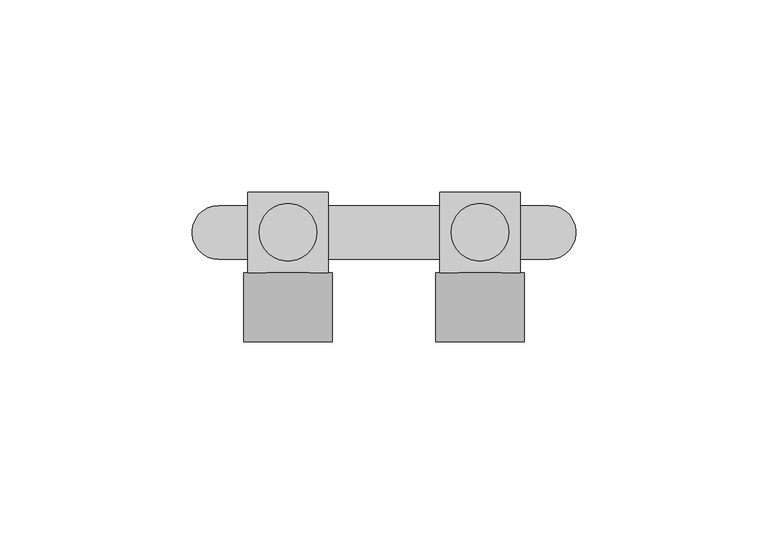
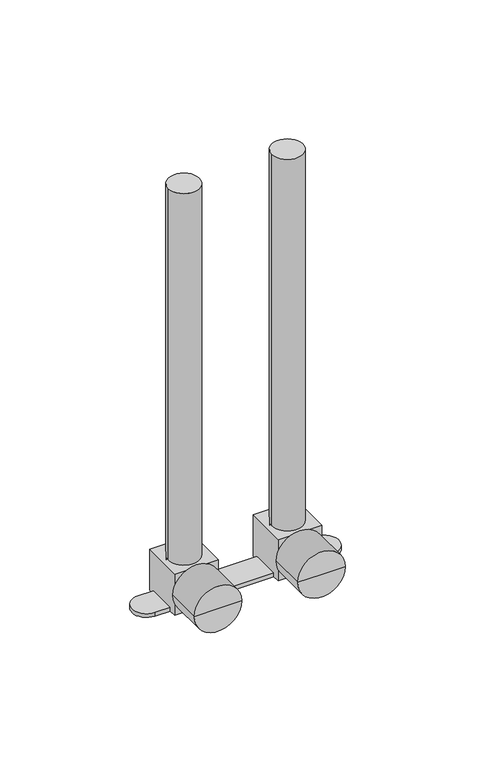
"""IFC4 building model written with IfcOpenShell, lengths in millimetres: pipe fitting geometry, KAN-therm Push kolanko zespolone ze wspornikiem L=200 : KAN-therm Push kolanko zespolone ze wspornikiem L=200."""

import ifcopenshell
import ifcopenshell.guid

model = None  # the IFC model being written
_history = None  # IfcOwnerHistory: only IFC2X3 demands one
_inside = {}  # id of a spatial element -> (the spatial element, [elements in it])
_under = {}  # id of a project, library or spatial element -> (it, [spatial elements below it])
_declared = {}  # id of a project -> (the project, [libraries it declares])
_typed = {}  # id of a type object -> (the type object, [elements of that type])
_made_of = {}  # id of a material, layer set ... -> (it, [elements and type objects made of it])


def new_model(schema):
    """Start an empty IFC model of exactly this schema.

    Asked for "IFC4X3", IfcOpenShell would pick the latest addendum, in which some entities
    have other attributes; the version numbers below select the first issue.
    IFC2X3 requires an IfcOwnerHistory on every rooted entity: one is made here for all.
    """
    global model, _history
    if schema == "IFC4X3":
        model = ifcopenshell.file(schema_version=(4, 3, 0, 0))
    else:
        model = ifcopenshell.file(schema=schema)
    _inside.clear()
    _under.clear()
    _declared.clear()
    _typed.clear()
    _made_of.clear()
    _history = None
    if model.schema == "IFC2X3":
        org = make("IfcOrganization", Name="unknown")
        user = make(
            "IfcPersonAndOrganization",
            ThePerson=make("IfcPerson", FamilyName="unknown"),
            TheOrganization=org,
        )
        app = make(
            "IfcApplication",
            ApplicationDeveloper=org,
            Version="unknown",
            ApplicationFullName="unknown",
            ApplicationIdentifier="unknown",
        )
        _history = make(
            "IfcOwnerHistory",
            OwningUser=user,
            OwningApplication=app,
            ChangeAction="ADDED",
            CreationDate=0,
        )
    return model


def make(cls, **values):
    """One entity of the class cls with the attributes given. An attribute that is None is left unset."""
    return model.create_entity(
        cls, **{name: value for name, value in values.items() if value is not None}
    )


def rooted(cls, **values):
    """An entity with a GlobalId (a new one), such as an element, a storey or a relation."""
    return make(cls, GlobalId=ifcopenshell.guid.new(), OwnerHistory=_history, **values)


def si_unit(unit_type, name, prefix=None):
    """IfcSIUnit, for example si_unit("LENGTHUNIT", "METRE", prefix="MILLI")."""
    return make("IfcSIUnit", UnitType=unit_type, Prefix=prefix, Name=name)


def assignment(units):
    """IfcUnitAssignment: the units of a project."""
    return None if units is None else make("IfcUnitAssignment", Units=units)


def point(xyz):
    """IfcCartesianPoint."""
    return None if xyz is None else make("IfcCartesianPoint", Coordinates=xyz)


def direction(xyz):
    """IfcDirection."""
    return None if xyz is None else make("IfcDirection", DirectionRatios=xyz)


def frame(location, z_axis=None, x_axis=None):
    """IfcAxis2Placement3D, a coordinate frame: its origin and axes. An axis left out is left unset."""
    return make(
        "IfcAxis2Placement3D",
        Location=point(location),
        Axis=direction(z_axis),
        RefDirection=direction(x_axis),
    )


def frame_2d(location, x_axis=None):
    """IfcAxis2Placement2D, a coordinate frame in the plane: its origin and x axis."""
    return make(
        "IfcAxis2Placement2D", Location=point(location), RefDirection=direction(x_axis)
    )


def origin():
    """The frame at (0, 0, 0) with its axes left unset."""
    return frame((0.0, 0.0, 0.0))


def origin_with_axes():
    """The frame at (0, 0, 0) with the z axis (0, 0, 1) and the x axis (1, 0, 0) written out."""
    return frame((0.0, 0.0, 0.0), z_axis=(0.0, 0.0, 1.0), x_axis=(1.0, 0.0, 0.0))


def origin_2d():
    """The frame at (0, 0) in the plane with its x axis left unset."""
    return frame_2d((0.0, 0.0))


def place(relative_to, where):
    """IfcLocalPlacement: puts the frame where relative to a parent placement (None: the world)."""
    return make(
        "IfcLocalPlacement", PlacementRelTo=relative_to, RelativePlacement=where
    )


def context(
    kind, dimensions, precision=None, world=None, true_north=None, identifier=None
):
    """IfcGeometricRepresentationContext, for example the 3D "Model" context."""
    return make(
        "IfcGeometricRepresentationContext",
        ContextIdentifier=identifier,
        ContextType=kind,
        CoordinateSpaceDimension=dimensions,
        Precision=precision,
        WorldCoordinateSystem=world,
        TrueNorth=true_north,
    )


def project(units=None, contexts=None):
    """IfcProject with its units and contexts."""
    return rooted(
        "IfcProject",
        Name="project",
        RepresentationContexts=contexts,
        UnitsInContext=assignment(units),
    )


def spatial(cls, under=None, at=None, **own):
    """A site, building, storey or space (cls), placed at a placement, below another one or the project."""
    s = rooted(cls, ObjectPlacement=at, **own)
    if under is not None:
        _under.setdefault(under.id(), (under, []))[1].append(s)
    return s


def circle_curve(where, radius):
    """IfcCircle in the frame where."""
    return make("IfcCircle", Position=where, Radius=radius)


def trimmed(basis, trim1, trim2, sense, master):
    """IfcTrimmedCurve: the piece of a basis curve between two trims."""
    return make(
        "IfcTrimmedCurve",
        BasisCurve=basis,
        Trim1=trim1,
        Trim2=trim2,
        SenseAgreement=sense,
        MasterRepresentation=master,
    )


def segment(curve, same_sense, transition):
    """IfcCompositeCurveSegment."""
    return make(
        "IfcCompositeCurveSegment",
        Transition=transition,
        SameSense=same_sense,
        ParentCurve=curve,
    )


def composite_curve(segments, self_intersect=None):
    """IfcCompositeCurve: segments joined end to end."""
    return make("IfcCompositeCurve", Segments=segments, SelfIntersect=self_intersect)


def outline(outer, holes=None, kind="AREA"):
    """IfcArbitraryClosedProfileDef: a profile drawn as a closed curve; with holes, ...WithVoids."""
    if holes is None:
        return make("IfcArbitraryClosedProfileDef", ProfileType=kind, OuterCurve=outer)
    return make(
        "IfcArbitraryProfileDefWithVoids",
        ProfileType=kind,
        OuterCurve=outer,
        InnerCurves=holes,
    )


def extrude(swept, where, along, depth):
    """IfcExtrudedAreaSolid: the profile swept, set in the frame where, extruded along a direction by depth."""
    return make(
        "IfcExtrudedAreaSolid",
        SweptArea=swept,
        Position=where,
        ExtrudedDirection=direction(along),
        Depth=depth,
    )


def shape(context_of_items, identifier, shape_type, items):
    """IfcShapeRepresentation: the items that make up one representation, for example the "Body"."""
    return make(
        "IfcShapeRepresentation",
        ContextOfItems=context_of_items,
        RepresentationIdentifier=identifier,
        RepresentationType=shape_type,
        Items=items,
    )


def source(mapping_origin, context_of_items, identifier, shape_type, items):
    """IfcRepresentationMap: a shape defined once, which mapped items show again and again."""
    return make(
        "IfcRepresentationMap",
        MappingOrigin=mapping_origin,
        MappedRepresentation=shape(context_of_items, identifier, shape_type, items),
    )


def transform(
    local_origin,
    x_axis=None,
    y_axis=None,
    z_axis=None,
    scale=None,
    scale2=None,
    scale3=None,
    uniform=True,
):
    """IfcCartesianTransformationOperator3D, or its non-uniform kind. x_axis, y_axis, z_axis: its Axis1, 2, 3."""
    if uniform:
        return make(
            "IfcCartesianTransformationOperator3D",
            Axis1=direction(x_axis),
            Axis2=direction(y_axis),
            LocalOrigin=point(local_origin),
            Scale=scale,
            Axis3=direction(z_axis),
        )
    return make(
        "IfcCartesianTransformationOperator3DnonUniform",
        Axis1=direction(x_axis),
        Axis2=direction(y_axis),
        LocalOrigin=point(local_origin),
        Scale=scale,
        Axis3=direction(z_axis),
        Scale2=scale2,
        Scale3=scale3,
    )


def mapped(mapping_source, mapping_target):
    """IfcMappedItem: shows the shape of a source again, moved by a transform."""
    return make(
        "IfcMappedItem", MappingSource=mapping_source, MappingTarget=mapping_target
    )


def made_of(thing, what):
    """Note that an element or type object is made of a material, layer set ...; save() writes the relation."""
    if what is not None:
        _made_of.setdefault(what.id(), (what, []))[1].append(thing)
    return thing


def element(
    cls,
    number,
    at=None,
    inside=None,
    cuts=None,
    type_object=None,
    material=None,
    context=None,
    identifier="Body",
    shape_type=None,
    held_by="IfcProductDefinitionShape",
    body=None,
    shapes=None,
    **own,
):
    """One element of the class cls, such as IfcWall. Its Tag is "e" and its number.

    at: its placement. inside: the storey or other place that contains it. cuts: it is an
    opening in that element (IfcRelVoidsElement). A single representation is given by context,
    identifier, shape_type and body (its items); several are given by shapes. held_by: the class
    of the entity that holds the representations. save() writes the other relations.
    """
    e = rooted(cls, Tag="e%d" % number, ObjectPlacement=at, **own)
    if body is not None:
        shapes = [shape(context, identifier, shape_type, body)]
    if shapes is not None:
        e.Representation = make(held_by, Representations=shapes)
    if inside is not None:
        _inside.setdefault(inside.id(), (inside, []))[1].append(e)
    if cuts is not None:
        rooted(
            "IfcRelVoidsElement", RelatingBuildingElement=cuts, RelatedOpeningElement=e
        )
    if type_object is not None:
        _typed.setdefault(type_object.id(), (type_object, []))[1].append(e)
    return made_of(e, material)


def aggregate(whole, parts):
    """IfcRelAggregates: a whole, such as a stair, and the parts it consists of."""
    return rooted("IfcRelAggregates", RelatingObject=whole, RelatedObjects=parts)


def save(model, path):
    """Write the relations noted so far, then the file.

    IfcRelAggregates (storeys below a building ...), IfcRelContainedInSpatialStructure (elements
    in a storey), IfcRelDefinesByType, IfcRelAssociatesMaterial and IfcRelDeclares: one each for
    every whole, place, type object, material and project.
    """
    for whole, parts in _under.values():
        aggregate(whole, parts)
    for where, things in _inside.values():
        rooted(
            "IfcRelContainedInSpatialStructure",
            RelatedElements=things,
            RelatingStructure=where,
        )
    for kind, things in _typed.values():
        rooted("IfcRelDefinesByType", RelatedObjects=things, RelatingType=kind)
    for what, things in _made_of.values():
        rooted("IfcRelAssociatesMaterial", RelatedObjects=things, RelatingMaterial=what)
    for by, libraries in _declared.values():
        rooted("IfcRelDeclares", RelatingContext=by, RelatedDefinitions=libraries)
    model.write(path)


def plane_surface(at):
    """IfcPlane: the flat surface through the origin of the frame at, square to its z axis."""
    return make("IfcPlane", Position=at)


def cylinder_surface(at, radius):
    """IfcCylindricalSurface: all points at the distance radius from the z axis of the frame at."""
    return make("IfcCylindricalSurface", Position=at, Radius=radius)


def advanced_brep(points, edges, surfaces, faces):
    """IfcAdvancedBrep: a solid bounded by faces that lie on surfaces and meet in shared edges.

    An edge is (start, end): straight between two places in points (the first is 0);
    or (start, end, curve); or (start, end, curve, False) where it runs against its curve.
    A face is (place in surfaces, loops), or (place, loops, False) where it looks against
    its surface's normal. A loop lists edges by number (the first is 1), with a minus sign
    where the edge is run from its end to its start. The first loop is the outer one.
    """
    corners = [point(p) for p in points]
    vertices = [make("IfcVertexPoint", VertexGeometry=c) for c in corners]
    made = []
    for start, end, *more in edges:
        made.append(
            make(
                "IfcEdgeCurve",
                EdgeStart=vertices[start],
                EdgeEnd=vertices[end],
                EdgeGeometry=more[0] if more else make("IfcPolyline", Points=[corners[start], corners[end]]),
                SameSense=more[1] if len(more) > 1 else True,
            )
        )
    hull = []
    for where, loops, *sense in faces:
        bounds = []
        for j, loop in enumerate(loops):
            ring = [make("IfcOrientedEdge", EdgeElement=made[abs(k) - 1], Orientation=k > 0) for k in loop]
            bounds.append(
                make(
                    "IfcFaceOuterBound" if j == 0 else "IfcFaceBound",
                    Bound=make("IfcEdgeLoop", EdgeList=ring),
                    Orientation=True,
                )
            )
        hull.append(make("IfcAdvancedFace", Bounds=bounds, FaceSurface=surfaces[where], SameSense=sense[0] if sense else True))
    return make("IfcAdvancedBrep", Outer=make("IfcClosedShell", CfsFaces=hull))


def pipe_fitting_952cee33(model_context):
    return source(origin(), model_context, "Body", "SolidModel", [
        advanced_brep(
        [(-11.5, -28.5, 0.0), (11.5, -28.5, 0.0), (0.0, -28.5, 0.0), (-11.5, -10.5, 0.0), (11.5, -10.5, 0.0), (0.0, -10.5, 0.0)],
        [
            (0, 1, circle_curve(frame((0.0, -28.5, 0.0), z_axis=(0.0, -1.0, 0.0), x_axis=(1.0000000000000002, 0.0, 0.0)), 11.5)),
            (1, 2),
            (2, 0),
            (1, 0, circle_curve(frame((0.0, -28.5, 0.0), z_axis=(0.0, -1.0, 0.0), x_axis=(1.0000000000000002, 0.0, 0.0)), 11.5)),
            (3, 4, circle_curve(frame((0.0, -10.5, 0.0), z_axis=(0.0, -1.0, 0.0), x_axis=(1.0000000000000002, 0.0, 0.0)), 11.5)),
            (4, 1),
            (0, 3),
            (4, 3, circle_curve(frame((0.0, -10.5, 0.0), z_axis=(0.0, -1.0, 0.0), x_axis=(1.0000000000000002, 0.0, 0.0)), 11.5)),
            (5, 4),
            (3, 5),
        ],
        [
            plane_surface(frame((0.0, -28.5, 0.0), z_axis=(0.0, -1.0, 0.0), x_axis=(1.0, 0.0, 0.0))),
            cylinder_surface(frame((0.0, -2005.5, 0.0), z_axis=(0.0, 1.0000000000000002, 0.0), x_axis=(1.0000000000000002, 0.0, 0.0)), 11.5),
            plane_surface(frame((0.0, -10.5, 0.0), z_axis=(0.0, 1.0, 0.0), x_axis=(1.0, 0.0, 0.0))),
        ],
        [
            (0, [[1, 2, 3]]),
            (0, [[4, -3, -2]]),
            (1, [[5, 6, -1, 7]]),
            (1, [[8, -7, -4, -6]]),
            (2, [[9, -5, 10]]),
            (2, [[-10, -8, -9]]),
        ],
    ),
        advanced_brep(
        [(38.5, -28.5, 0.0), (61.5, -28.5, 0.0), (50.0, -28.5, 0.0), (38.5, -10.5, 0.0), (61.5, -10.5, 0.0), (50.0, -10.5, 0.0)],
        [
            (0, 1, circle_curve(frame((50.0, -28.5, 0.0), z_axis=(0.0, -1.0, 0.0), x_axis=(1.0000000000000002, 0.0, 0.0)), 11.5)),
            (1, 2),
            (2, 0),
            (1, 0, circle_curve(frame((50.0, -28.5, 0.0), z_axis=(0.0, -1.0, 0.0), x_axis=(1.0000000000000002, 0.0, 0.0)), 11.5)),
            (3, 4, circle_curve(frame((50.0, -10.5, 0.0), z_axis=(0.0, -1.0, 0.0), x_axis=(1.0000000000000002, 0.0, 0.0)), 11.5)),
            (4, 1),
            (0, 3),
            (4, 3, circle_curve(frame((50.0, -10.5, 0.0), z_axis=(0.0, -1.0, 0.0), x_axis=(1.0000000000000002, 0.0, 0.0)), 11.5)),
            (5, 4),
            (3, 5),
        ],
        [
            plane_surface(frame((50.0, -28.5, 0.0), z_axis=(0.0, -1.0, 0.0), x_axis=(1.0, 0.0, 0.0))),
            cylinder_surface(frame((50.0, -2005.5, 0.0), z_axis=(0.0, 1.0000000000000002, 0.0), x_axis=(1.0000000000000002, 0.0, 0.0)), 11.5),
            plane_surface(frame((50.0, -10.5, 0.0), z_axis=(0.0, 1.0, 0.0), x_axis=(1.0, 0.0, 0.0))),
        ],
        [
            (0, [[1, 2, 3]]),
            (0, [[4, -3, -2]]),
            (1, [[5, 6, -1, 7]]),
            (1, [[8, -7, -4, -6]]),
            (2, [[9, -5, 10]]),
            (2, [[-10, -8, -9]]),
        ],
    ),
        extrude(outline(composite_curve([segment(trimmed(circle_curve(origin_2d(), 7.5), [point((-7.5, 0.0))], [point((7.5, 0.0))], False, "CARTESIAN"), True, "CONTINUOUS"), segment(trimmed(circle_curve(origin_2d(), 7.5), [point((7.5, 0.0))], [point((-7.5, 0.0))], False, "CARTESIAN"), True, "CONTINUOUS")], self_intersect=False)), origin_with_axes(), (0.0, 0.0, 1.0), 200.0),
        extrude(outline(composite_curve([segment(trimmed(circle_curve(frame_2d((50.0, 0.0)), 7.5), [point((42.5, 0.0))], [point((57.5, 0.0))], False, "CARTESIAN"), True, "CONTINUOUS"), segment(trimmed(circle_curve(frame_2d((50.0, 0.0)), 7.5), [point((57.5, 0.0))], [point((42.5, 0.0))], False, "CARTESIAN"), True, "CONTINUOUS")], self_intersect=False)), origin_with_axes(), (0.0, 0.0, 1.0), 200.0),
        advanced_brep(
        [(60.5, -10.5, 10.5), (60.5, 10.5, 10.5), (39.5, 10.5, 10.5), (39.5, -10.5, 10.5), (-18.0, -7.0, -10.5), (-18.0, 7.0, -10.5), (-10.5, 7.0, -10.5), (-10.5, 10.5, -10.5), (10.5, 10.5, -10.5), (10.5, 7.0, -10.5), (39.5, 7.0, -10.5), (39.5, 10.5, -10.5), (60.5, 10.5, -10.5), (60.5, 7.0, -10.5), (68.0, 7.0, -10.5), (68.0, -7.0, -10.5), (60.5, -7.0, -10.5), (60.5, -10.5, -10.5), (39.5, -10.5, -10.5), (39.5, -7.0, -10.5), (10.5, -7.0, -10.5), (10.5, -10.5, -10.5), (-10.5, -10.5, -10.5), (-10.5, -7.0, -10.5), (60.5, -7.0, -8.5), (60.5, 7.0, -8.5), (39.5, 7.0, -8.5), (39.5, -7.0, -8.5), (10.5, -10.5, 10.5), (10.5, 10.5, 10.5), (-10.5, 10.5, 10.5), (-10.5, -10.5, 10.5), (10.5, -7.0, -8.5), (10.5, 7.0, -8.5), (-10.5, 7.0, -8.5), (-10.5, -7.0, -8.5), (-18.0, 7.0, -8.5), (-18.0, -7.0, -8.5), (68.0, -7.0, -8.5), (68.0, 7.0, -8.5)],
        [
            (0, 1),
            (1, 2),
            (2, 3),
            (3, 0),
            (4, 5, circle_curve(frame((-18.0, 0.0, -10.5), z_axis=(0.0, 0.0, -1.0), x_axis=(1.0, 0.0, 0.0)), 7.0)),
            (5, 6),
            (6, 7),
            (7, 8),
            (8, 9),
            (9, 10),
            (10, 11),
            (11, 12),
            (12, 13),
            (13, 14),
            (14, 15, circle_curve(frame((68.0, 0.0, -10.5), z_axis=(0.0, 0.0, -1.0), x_axis=(1.0, 0.0, 0.0)), 7.0)),
            (15, 16),
            (16, 17),
            (17, 18),
            (18, 19),
            (19, 20),
            (20, 21),
            (21, 22),
            (22, 23),
            (23, 4),
            (0, 17),
            (16, 24),
            (24, 25),
            (25, 13),
            (12, 1),
            (11, 2),
            (10, 26),
            (26, 27),
            (27, 19),
            (18, 3),
            (28, 29),
            (29, 30),
            (30, 31),
            (31, 28),
            (28, 21),
            (20, 32),
            (32, 33),
            (33, 9),
            (8, 29),
            (7, 30),
            (6, 34),
            (34, 35),
            (35, 23),
            (22, 31),
            (36, 37, circle_curve(frame((-18.0, 0.0, -8.5), z_axis=(0.0, 0.0, 1.0), x_axis=(1.0, 0.0, 0.0)), 7.0)),
            (37, 35),
            (34, 36),
            (38, 39, circle_curve(frame((68.0, 0.0, -8.5), z_axis=(0.0, 0.0, 1.0), x_axis=(1.0, 0.0, 0.0)), 7.0)),
            (39, 25),
            (24, 38),
            (26, 33),
            (32, 27),
            (39, 14),
            (5, 36),
            (4, 37),
            (15, 38),
        ],
        [
            plane_surface(frame((60.5, 10.5, 10.5), z_axis=(0.0, 0.0, 1.0), x_axis=(0.0, 1.0, 0.0))),
            plane_surface(frame((60.5, 10.5, -10.5), z_axis=(0.0, 0.0, -1.0), x_axis=(0.0, -1.0, 0.0))),
            plane_surface(frame((60.5, -10.5, 10.5), z_axis=(1.0, 0.0, 0.0), x_axis=(0.0, 0.0, -1.0))),
            plane_surface(frame((60.5, 10.5, 10.5), z_axis=(0.0, 1.0, 0.0), x_axis=(0.0, 0.0, -1.0))),
            plane_surface(frame((39.5, 10.5, 10.5), z_axis=(-1.0, 0.0, 0.0), x_axis=(0.0, 0.0, -1.0))),
            plane_surface(frame((39.5, -10.5, 10.5), z_axis=(0.0, -1.0, 0.0), x_axis=(0.0, 0.0, -1.0))),
            plane_surface(frame((10.5, 10.5, 10.5), z_axis=(0.0, 0.0, 1.0), x_axis=(0.0, 1.0, 0.0))),
            plane_surface(frame((10.5, -10.5, 10.5), z_axis=(1.0, 0.0, 0.0), x_axis=(0.0, 0.0, -1.0))),
            plane_surface(frame((10.5, 10.5, 10.5), z_axis=(0.0, 1.0, 0.0), x_axis=(0.0, 0.0, -1.0))),
            plane_surface(frame((-10.5, 10.5, 10.5), z_axis=(-1.0, 0.0, 0.0), x_axis=(0.0, 0.0, -1.0))),
            plane_surface(frame((-10.5, -10.5, 10.5), z_axis=(0.0, -1.0, 0.0), x_axis=(0.0, 0.0, -1.0))),
            plane_surface(frame((2000.0, 7.0, -8.5), z_axis=(0.0, 0.0, 1.0), x_axis=(-1.0, 0.0, 0.0))),
            plane_surface(frame((68.0, 7.0, -8.5), z_axis=(0.0, 1.0, 0.0), x_axis=(0.0, 0.0, -1.0))),
            cylinder_surface(frame((-18.0, 0.0, -10.5), z_axis=(0.0, 0.0, 1.0), x_axis=(1.0, 0.0, 0.0)), 7.0),
            plane_surface(frame((-18.0, -7.0, -8.5), z_axis=(0.0, -1.0, 0.0), x_axis=(0.0, 0.0, -1.0))),
            cylinder_surface(frame((68.0, 0.0, -10.5), z_axis=(0.0, 0.0, 1.0), x_axis=(1.0, 0.0, 0.0)), 7.0),
        ],
        [
            (0, [[1, 2, 3, 4]]),
            (1, [[5, 6, 7, 8, 9, 10, 11, 12, 13, 14, 15, 16, 17, 18, 19, 20, 21, 22, 23, 24]]),
            (2, [[-1, 25, -17, 26, 27, 28, -13, 29]]),
            (3, [[-2, -29, -12, 30]]),
            (4, [[-3, -30, -11, 31, 32, 33, -19, 34]]),
            (5, [[-4, -34, -18, -25]]),
            (6, [[35, 36, 37, 38]]),
            (7, [[-35, 39, -21, 40, 41, 42, -9, 43]]),
            (8, [[-36, -43, -8, 44]]),
            (9, [[-37, -44, -7, 45, 46, 47, -23, 48]]),
            (10, [[-38, -48, -22, -39]]),
            (11, [[49, 50, -46, 51]]),
            (11, [[52, 53, -27, 54]]),
            (11, [[55, -41, 56, -32]]),
            (12, [[-10, -42, -55, -31]]),
            (12, [[57, -14, -28, -53]]),
            (12, [[58, -51, -45, -6]]),
            (13, [[-49, -58, -5, 59]]),
            (14, [[-20, -33, -56, -40]]),
            (14, [[-59, -24, -47, -50]]),
            (14, [[60, -54, -26, -16]]),
            (15, [[-52, -60, -15, -57]]),
        ],
    ),
    ])


if __name__ == "__main__":
    model = new_model("IFC4")
    model_context = context("Model", 3, world=origin())
    ifc_project = project(units=[si_unit("LENGTHUNIT", "METRE", prefix="MILLI")], contexts=[model_context])
    site = spatial("IfcSite", under=ifc_project)
    building = spatial("IfcBuilding", under=site)
    placement = place(None, origin())
    pipe_fitting_shape = pipe_fitting_952cee33(model_context)
    element("IfcPipeFitting", 1, ObjectType="KAN-therm Push kolanko zespolone ze wspornikiem L=200 : KAN-therm Push kolanko zespolone ze wspornikiem L=200", at=placement, inside=building, context=model_context, shape_type="MappedRepresentation", body=[
        mapped(pipe_fitting_shape, transform((0.0, 0.0, 0.0), x_axis=(1.0, 0.0, 0.0), y_axis=(0.0, 1.0, 0.0), z_axis=(0.0, 0.0, 1.0))),
    ])
    save(model, "model.ifc")
